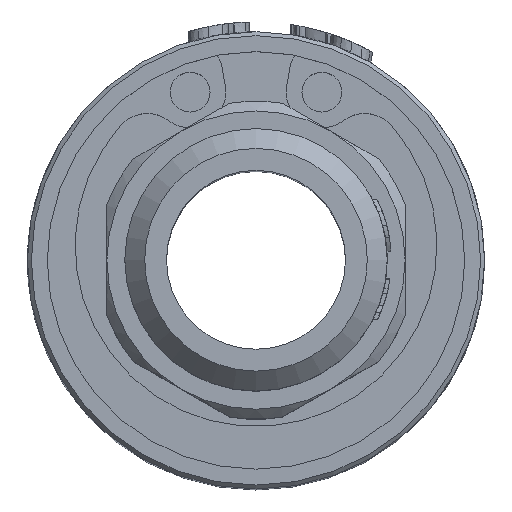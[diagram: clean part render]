
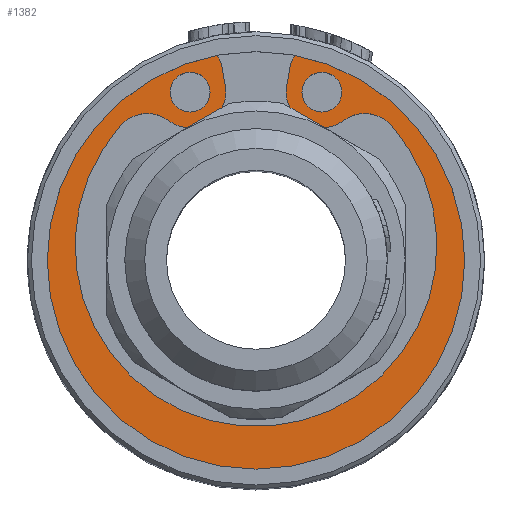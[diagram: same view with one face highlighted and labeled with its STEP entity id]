
A CAD part, top view. The second image highlights one B-rep face of the part: STEP entity #1382.
In plain terms, the highlighted planar face has unit normal (0, 0, 1).
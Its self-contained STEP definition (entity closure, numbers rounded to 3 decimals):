
#203=FACE_BOUND('',#3448,.T.);
#204=FACE_BOUND('',#3449,.T.);
#205=FACE_BOUND('',#3450,.T.);
#1382=ADVANCED_FACE('',(#203,#204,#205),#1906,.T.);
#1906=PLANE('',#16218);
#3448=EDGE_LOOP('',(#9051));
#3449=EDGE_LOOP('',(#9052,#9053,#9054,#9055,#9056,#9057,#9058,#9059,#9060,
#9061,#9062,#9063,#9064,#9065));
#3450=EDGE_LOOP('',(#9066));
#3776=CIRCLE('',#16187,11.);
#3777=CIRCLE('',#16192,6.6);
#3778=CIRCLE('',#16194,6.6);
#3779=CIRCLE('',#16196,1.793);
#3780=CIRCLE('',#16198,1.793);
#3781=CIRCLE('',#16200,1.793);
#3782=CIRCLE('',#16202,1.793);
#3783=CIRCLE('',#16204,9.1);
#3784=CIRCLE('',#16206,1.);
#3785=CIRCLE('',#16208,1.793);
#3786=CIRCLE('',#16211,1.793);
#3787=CIRCLE('',#16213,1.);
#3788=CIRCLE('',#16216,1.);
#3789=CIRCLE('',#16217,1.);
#9051=ORIENTED_EDGE('',*,*,#14162,.F.);
#9052=ORIENTED_EDGE('',*,*,#14161,.T.);
#9053=ORIENTED_EDGE('',*,*,#14159,.T.);
#9054=ORIENTED_EDGE('',*,*,#14134,.F.);
#9055=ORIENTED_EDGE('',*,*,#14153,.F.);
#9056=ORIENTED_EDGE('',*,*,#14156,.F.);
#9057=ORIENTED_EDGE('',*,*,#14154,.F.);
#9058=ORIENTED_EDGE('',*,*,#14142,.T.);
#9059=ORIENTED_EDGE('',*,*,#14146,.F.);
#9060=ORIENTED_EDGE('',*,*,#14143,.F.);
#9061=ORIENTED_EDGE('',*,*,#14151,.F.);
#9062=ORIENTED_EDGE('',*,*,#14147,.T.);
#9063=ORIENTED_EDGE('',*,*,#14150,.T.);
#9064=ORIENTED_EDGE('',*,*,#14139,.F.);
#9065=ORIENTED_EDGE('',*,*,#14157,.T.);
#9066=ORIENTED_EDGE('',*,*,#14163,.T.);
#11969=VERTEX_POINT('',#30476);
#11970=VERTEX_POINT('',#30477);
#11971=VERTEX_POINT('',#30485);
#11972=VERTEX_POINT('',#30487);
#11973=VERTEX_POINT('',#30491);
#11974=VERTEX_POINT('',#30493);
#11975=VERTEX_POINT('',#30497);
#11976=VERTEX_POINT('',#30498);
#11977=VERTEX_POINT('',#30505);
#11978=VERTEX_POINT('',#30506);
#11979=VERTEX_POINT('',#30515);
#11980=VERTEX_POINT('',#30519);
#11981=VERTEX_POINT('',#30525);
#11982=VERTEX_POINT('',#30529);
#11983=VERTEX_POINT('',#30535);
#11984=VERTEX_POINT('',#30537);
#14134=EDGE_CURVE('',#11969,#11970,#3776,.T.);
#14139=EDGE_CURVE('',#11972,#11971,#3777,.T.);
#14142=EDGE_CURVE('',#11973,#11974,#3778,.T.);
#14143=EDGE_CURVE('',#11975,#11976,#3779,.T.);
#14146=EDGE_CURVE('',#11976,#11974,#3780,.T.);
#14147=EDGE_CURVE('',#11977,#11978,#3781,.T.);
#14150=EDGE_CURVE('',#11978,#11971,#3782,.T.);
#14151=EDGE_CURVE('',#11977,#11975,#3783,.T.);
#14153=EDGE_CURVE('',#11979,#11969,#3784,.T.);
#14154=EDGE_CURVE('',#11973,#11980,#3785,.T.);
#14156=EDGE_CURVE('',#11980,#11979,#14970,.T.);
#14157=EDGE_CURVE('',#11972,#11981,#3786,.T.);
#14159=EDGE_CURVE('',#11982,#11970,#3787,.T.);
#14161=EDGE_CURVE('',#11981,#11982,#14973,.T.);
#14162=EDGE_CURVE('',#11983,#11983,#3788,.T.);
#14163=EDGE_CURVE('',#11984,#11984,#3789,.T.);
#14970=LINE('',#30522,#15671);
#14973=LINE('',#30532,#15674);
#15671=VECTOR('',#17727,1.);
#15674=VECTOR('',#17740,1.);
#16187=AXIS2_PLACEMENT_3D('',#30475,#17669,#17670);
#16192=AXIS2_PLACEMENT_3D('',#30488,#17683,#17684);
#16194=AXIS2_PLACEMENT_3D('',#30494,#17689,#17690);
#16196=AXIS2_PLACEMENT_3D('',#30496,#17693,#17694);
#16198=AXIS2_PLACEMENT_3D('',#30502,#17699,#17700);
#16200=AXIS2_PLACEMENT_3D('',#30504,#17703,#17704);
#16202=AXIS2_PLACEMENT_3D('',#30510,#17709,#17710);
#16204=AXIS2_PLACEMENT_3D('',#30512,#17713,#17714);
#16206=AXIS2_PLACEMENT_3D('',#30516,#17718,#17719);
#16208=AXIS2_PLACEMENT_3D('',#30518,#17722,#17723);
#16211=AXIS2_PLACEMENT_3D('',#30524,#17730,#17731);
#16213=AXIS2_PLACEMENT_3D('',#30528,#17735,#17736);
#16216=AXIS2_PLACEMENT_3D('',#30534,#17743,#17744);
#16217=AXIS2_PLACEMENT_3D('',#30536,#17745,#17746);
#16218=AXIS2_PLACEMENT_3D('',#30538,#17747,#17748);
#17669=DIRECTION('',(0.,0.,-1.));
#17670=DIRECTION('',(1.,0.,0.));
#17683=DIRECTION('',(0.,0.,1.));
#17684=DIRECTION('',(1.,0.,0.));
#17689=DIRECTION('',(0.,0.,-1.));
#17690=DIRECTION('',(-1.,0.,0.));
#17693=DIRECTION('',(0.,0.,1.));
#17694=DIRECTION('',(-1.,0.,0.));
#17699=DIRECTION('',(0.,0.,-1.));
#17700=DIRECTION('',(-1.,0.,0.));
#17703=DIRECTION('',(0.,0.,-1.));
#17704=DIRECTION('',(1.,0.,0.));
#17709=DIRECTION('',(0.,0.,1.));
#17710=DIRECTION('',(1.,0.,0.));
#17713=DIRECTION('',(0.,0.,1.));
#17714=DIRECTION('',(1.,0.,0.));
#17718=DIRECTION('',(0.,0.,-1.));
#17719=DIRECTION('',(-1.,0.,0.));
#17722=DIRECTION('',(0.,0.,-1.));
#17723=DIRECTION('',(-1.,0.,0.));
#17727=DIRECTION('',(0.174,0.985,0.));
#17730=DIRECTION('',(0.,0.,1.));
#17731=DIRECTION('',(1.,0.,0.));
#17735=DIRECTION('',(0.,0.,1.));
#17736=DIRECTION('',(1.,0.,0.));
#17740=DIRECTION('',(-0.174,0.985,0.));
#17743=DIRECTION('',(0.,0.,1.));
#17744=DIRECTION('',(1.,0.,0.));
#17745=DIRECTION('',(0.,0.,-1.));
#17746=DIRECTION('',(-1.,0.,0.));
#17747=DIRECTION('',(0.,0.,1.));
#17748=DIRECTION('',(1.,0.,0.));
#30475=CARTESIAN_POINT('',(0.,0.,26.5));
#30476=CARTESIAN_POINT('',(2.984,10.588,26.5));
#30477=CARTESIAN_POINT('',(-2.984,10.588,26.5));
#30485=CARTESIAN_POINT('',(-2.605,6.814,26.5));
#30487=CARTESIAN_POINT('',(-2.605,6.814,26.5));
#30488=CARTESIAN_POINT('',(0.,0.75,26.5));
#30491=CARTESIAN_POINT('',(2.605,6.814,26.5));
#30493=CARTESIAN_POINT('',(2.605,6.814,26.5));
#30494=CARTESIAN_POINT('',(0.,0.75,26.5));
#30496=CARTESIAN_POINT('',(5.469,5.596,26.5));
#30497=CARTESIAN_POINT('',(6.811,6.785,26.5));
#30498=CARTESIAN_POINT('',(4.391,7.029,26.5));
#30502=CARTESIAN_POINT('',(3.313,8.462,26.5));
#30504=CARTESIAN_POINT('',(-5.469,5.596,26.5));
#30505=CARTESIAN_POINT('',(-6.811,6.785,26.5));
#30506=CARTESIAN_POINT('',(-4.391,7.029,26.5));
#30510=CARTESIAN_POINT('',(-3.313,8.462,26.5));
#30512=CARTESIAN_POINT('',(0.,0.75,26.5));
#30515=CARTESIAN_POINT('',(1.728,9.799,26.5));
#30516=CARTESIAN_POINT('',(2.713,9.625,26.5));
#30518=CARTESIAN_POINT('',(3.313,8.462,26.5));
#30519=CARTESIAN_POINT('',(1.547,8.773,26.5));
#30522=CARTESIAN_POINT('',(0.,0.,26.5));
#30524=CARTESIAN_POINT('',(-3.313,8.462,26.5));
#30525=CARTESIAN_POINT('',(-1.547,8.773,26.5));
#30528=CARTESIAN_POINT('',(-2.713,9.625,26.5));
#30529=CARTESIAN_POINT('',(-1.728,9.799,26.5));
#30532=CARTESIAN_POINT('',(0.,0.,26.5));
#30534=CARTESIAN_POINT('',(-3.313,8.462,26.5));
#30535=CARTESIAN_POINT('',(-2.313,8.462,26.5));
#30536=CARTESIAN_POINT('',(3.313,8.462,26.5));
#30537=CARTESIAN_POINT('',(2.313,8.462,26.5));
#30538=CARTESIAN_POINT('',(0.,0.,26.5));
